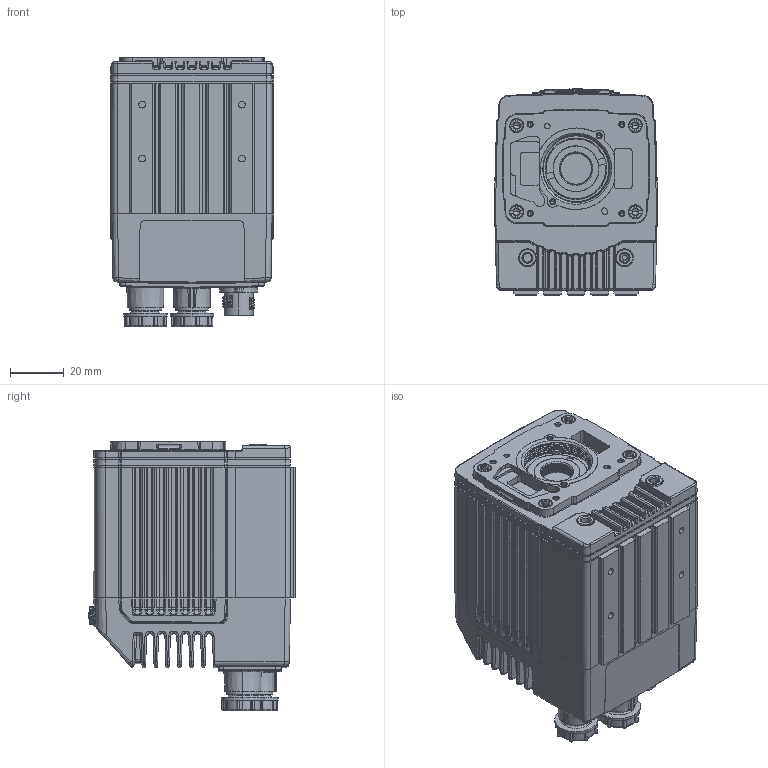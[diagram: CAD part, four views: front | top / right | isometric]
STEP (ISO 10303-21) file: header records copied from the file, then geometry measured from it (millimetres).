
FILE_DESCRIPTION (( 'STEP AP214' ), '1' );
FILE_NAME ('DM47X.STEP', '2017-09-01T13:11:03', ( '' ), ( '' ), 'SwSTEP 2.0', 'SolidWorks 2017', '' );
FILE_SCHEMA (( 'AUTOMOTIVE_DESIGN' ));
Length unit declared in the file: millimetre
Products named in the file (1): DM47X
Bounding box: 60.5 x 76.36 x 100 mm (x, y, z)
Volume: 335582 mm3; surface area: 48174.8 mm2
Topology: 1 solids, 8 shells, 3167 faces, 8183 edges, 5098 vertices
Faces by surface type: bspline 1292, plane 843, cylinder 793, cone 215, torus 24
Entity records: 161053 total; most frequent: CARTESIAN_POINT 97742, ORIENTED_EDGE 16234, DIRECTION 8622, EDGE_CURVE 8117, VERTEX_POINT 5098, B_SPLINE_CURVE_WITH_KNOTS 4223, EDGE_LOOP 3299, ADVANCED_FACE 3167
